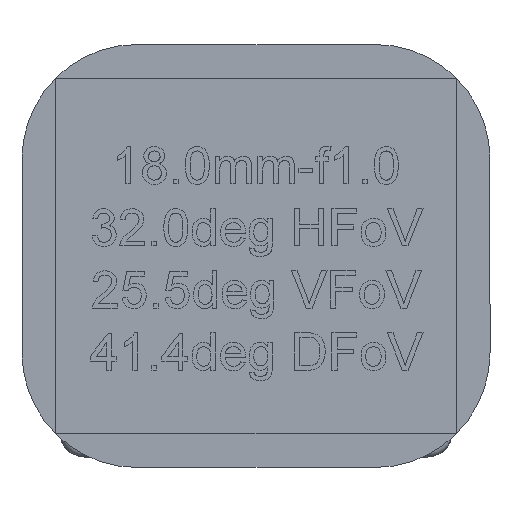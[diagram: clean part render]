
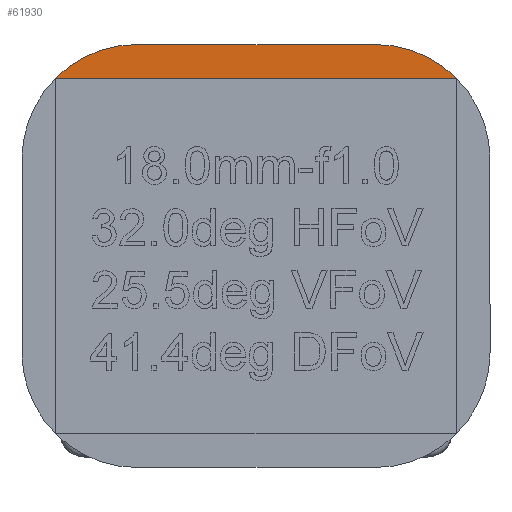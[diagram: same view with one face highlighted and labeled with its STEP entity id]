
A CAD part, top view. The second image highlights one B-rep face of the part: STEP entity #61930.
In plain terms, the highlighted planar face has unit normal (0, 0, 1).
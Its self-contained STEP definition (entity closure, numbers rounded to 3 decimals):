
#8800 = DIRECTION ( 'NONE',  ( -1., 0., 0. ) ) ;
#10105 = CARTESIAN_POINT ( 'NONE',  ( 16.144, 14.33, 56.85 ) ) ;
#10360 = CARTESIAN_POINT ( 'NONE',  ( -9.604, 17.038, 56.85 ) ) ;
#11670 = CARTESIAN_POINT ( 'NONE',  ( 0., 14.33, 56.85 ) ) ;
#17197 = PLANE ( 'NONE',  #215567 ) ;
#35425 = CARTESIAN_POINT ( 'NONE',  ( -16.144, 14.33, 56.85 ) ) ;
#37742 = EDGE_LOOP ( 'NONE', ( #229056, #218535, #76136, #292432 ) ) ;
#46371 = CARTESIAN_POINT ( 'NONE',  ( 9.604, 17.038, 56.85 ) ) ;
#53357 = EDGE_CURVE ( 'NONE', #301861, #89543, #247856, .T. ) ;
#60292 = VERTEX_POINT ( 'NONE', #46371 ) ;
#61930 = ADVANCED_FACE ( 'NONE', ( #317443 ), #17197, .F. ) ;
#72873 = CARTESIAN_POINT ( 'NONE',  ( 9.604, 7.79, 56.85 ) ) ;
#74680 = AXIS2_PLACEMENT_3D ( 'NONE', #325437, #187082, #79168 ) ;
#76136 = ORIENTED_EDGE ( 'NONE', *, *, #185512, .T. ) ;
#79168 = DIRECTION ( 'NONE',  ( -1., 0., 0. ) ) ;
#87907 = DIRECTION ( 'NONE',  ( 0., 0., 1. ) ) ;
#88249 = EDGE_CURVE ( 'NONE', #259839, #89543, #205720, .T. ) ;
#89543 = VERTEX_POINT ( 'NONE', #35425 ) ;
#97863 = EDGE_CURVE ( 'NONE', #259839, #60292, #286918, .T. ) ;
#121270 = DIRECTION ( 'NONE',  ( -1., 0., 0. ) ) ;
#179073 = AXIS2_PLACEMENT_3D ( 'NONE', #224484, #87907, #8800 ) ;
#185512 = EDGE_CURVE ( 'NONE', #60292, #301861, #320627, .T. ) ;
#187082 = DIRECTION ( 'NONE',  ( 0., 0., 1. ) ) ;
#205720 = LINE ( 'NONE', #11670, #337769 ) ;
#209625 = VECTOR ( 'NONE', #290179, 1000. ) ;
#215567 = AXIS2_PLACEMENT_3D ( 'NONE', #72873, #288667, #229380 ) ;
#218535 = ORIENTED_EDGE ( 'NONE', *, *, #97863, .T. ) ;
#224484 = CARTESIAN_POINT ( 'NONE',  ( -9.604, 7.79, 56.85 ) ) ;
#229056 = ORIENTED_EDGE ( 'NONE', *, *, #88249, .F. ) ;
#229380 = DIRECTION ( 'NONE',  ( -1., 0., 0. ) ) ;
#247856 = CIRCLE ( 'NONE', #179073, 9.248 ) ;
#259839 = VERTEX_POINT ( 'NONE', #10105 ) ;
#261458 = CARTESIAN_POINT ( 'NONE',  ( -9.604, 17.038, 56.85 ) ) ;
#286918 = CIRCLE ( 'NONE', #74680, 9.248 ) ;
#288667 = DIRECTION ( 'NONE',  ( 0., 0., -1. ) ) ;
#290179 = DIRECTION ( 'NONE',  ( -1., 0., 0. ) ) ;
#292432 = ORIENTED_EDGE ( 'NONE', *, *, #53357, .T. ) ;
#301861 = VERTEX_POINT ( 'NONE', #10360 ) ;
#317443 = FACE_OUTER_BOUND ( 'NONE', #37742, .T. ) ;
#320627 = LINE ( 'NONE', #261458, #209625 ) ;
#325437 = CARTESIAN_POINT ( 'NONE',  ( 9.604, 7.79, 56.85 ) ) ;
#337769 = VECTOR ( 'NONE', #121270, 1000. ) ;
